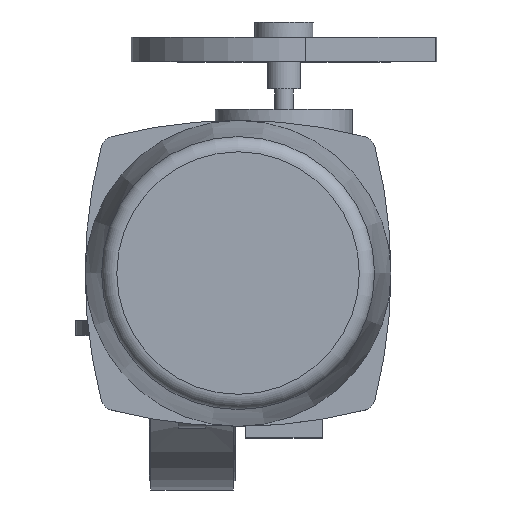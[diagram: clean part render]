
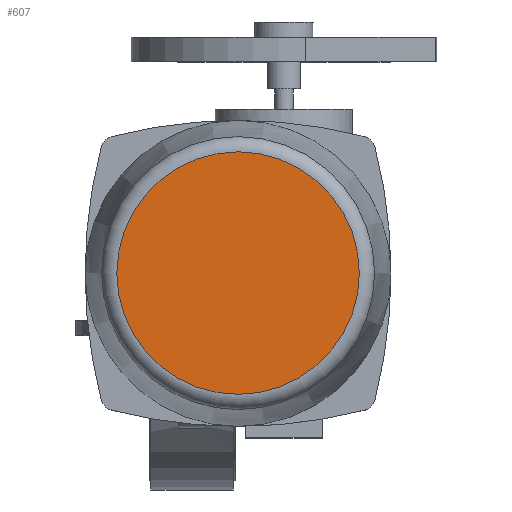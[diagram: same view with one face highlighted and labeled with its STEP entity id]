
A CAD part, top view. The second image highlights one B-rep face of the part: STEP entity #607.
In plain terms, the highlighted planar face has unit normal (0, 0, 1).
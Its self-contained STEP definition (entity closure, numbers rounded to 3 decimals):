
#607=ADVANCED_FACE('',(#6734),#6736,.T.);
#6734=FACE_BOUND('',#6735,.T.);
#6735=EDGE_LOOP('',(#11519));
#6736=PLANE('',#6737);
#6737=AXIS2_PLACEMENT_3D('',#6738,#6739,#6740);
#6738=CARTESIAN_POINT('',(30.,35.,489.));
#6739=DIRECTION('',(0.,0.,1.));
#6740=DIRECTION('',(1.,0.,0.));
#11519=ORIENTED_EDGE('',*,*,#15268,.T.);
#15268=EDGE_CURVE('',#17331,#17331,#17332,.T.);
#17331=VERTEX_POINT('',#21006);
#17332=CIRCLE('',#21007,79.288);
#21006=CARTESIAN_POINT('',(109.288,35.,489.));
#21007=AXIS2_PLACEMENT_3D('',#21008,#21009,#21010);
#21008=CARTESIAN_POINT('',(30.,35.,489.));
#21009=DIRECTION('',(0.,0.,1.));
#21010=DIRECTION('',(1.,0.,0.));
